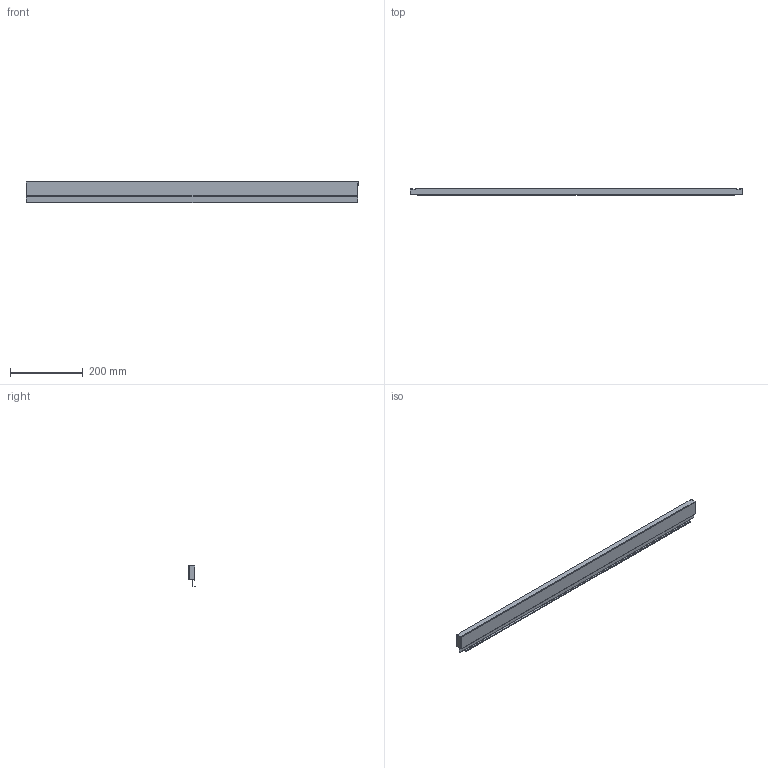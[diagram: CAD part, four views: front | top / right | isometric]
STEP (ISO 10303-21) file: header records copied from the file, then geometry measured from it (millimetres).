
FILE_DESCRIPTION (( 'STEP AP214' ), '1' );
FILE_NAME ('_STRW_H63_KAB_1000.step', '2010-08-24T14:40:53', ( 'grass' ), ( '' ), 'SwSTEP 2.0', 'SolidWorks 2009', '' );
FILE_SCHEMA (( 'AUTOMOTIVE_DESIGN' ));
Length unit declared in the file: millimetre
Products named in the file (1): _STRW_H63_KAB_1000
Bounding box: 910 x 17 x 58.14 mm (x, y, z)
Volume: 62775.4 mm3; surface area: 158604.8 mm2
Topology: 1 solids, 1 shells, 77 faces, 217 edges, 142 vertices
Faces by surface type: plane 54, cylinder 23
Entity records: 2507 total; most frequent: CARTESIAN_POINT 437, ORIENTED_EDGE 434, DIRECTION 419, EDGE_CURVE 217, LINE 171, VECTOR 171, VERTEX_POINT 142, AXIS2_PLACEMENT_3D 124
